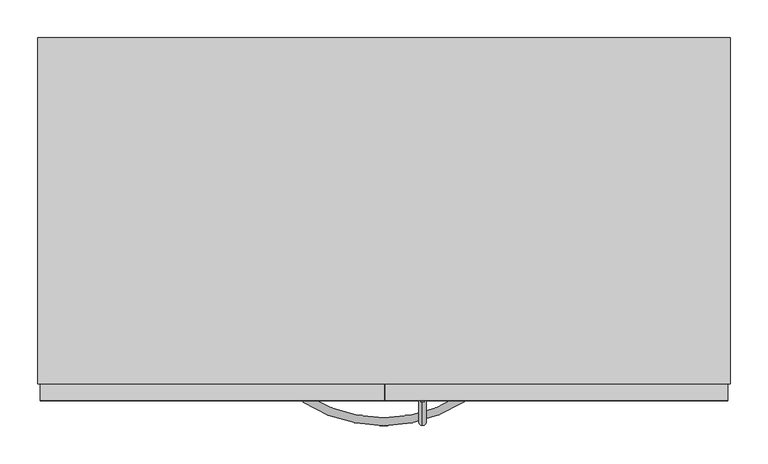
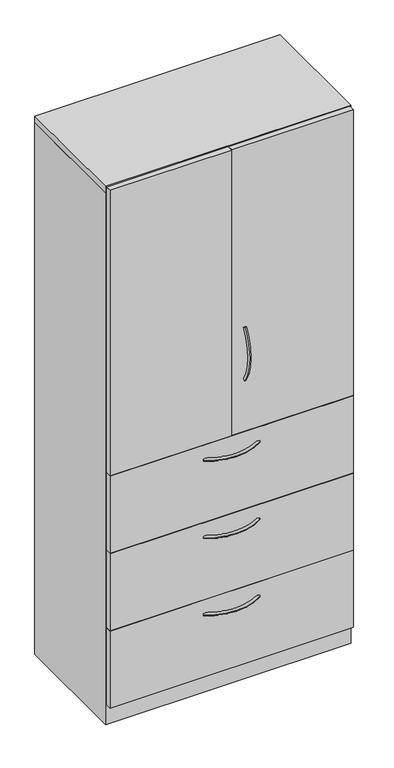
"""IFC4 building model written with IfcOpenShell, lengths in millimetres: furniture geometry, Steelcase - Universal Storage - Cabinet - Combination - Proud Steel : 83 1/2H - Hinged Doors/3 Drawers - 18 7/8D x 36W."""

from ifc_helpers import new_model, si_unit, point, frame, origin, place, context, project, spatial, polyline, circle_curve, ellipse_curve, trimmed, outline, extrude, faceted_brep, source, transform, mapped, element, save
from ifc_brep_helpers import plane_surface, revolved_surface, advanced_brep


def furniture_d7977ed6(model_context):
    return source(origin(), model_context, "Body", "SolidModel", [
        extrude(outline(polyline([(911.2225413, -479.552), (3.1725353, -479.552), (3.1725353, -457.3261219), (911.2225413, -457.3261219), (911.2225413, -479.552)])), frame((0.0, 0.0, 77.724), z_axis=(0.0, 0.0, 1.0), x_axis=(1.0, 0.0, 0.0)), (0.0, 0.0, 1.0), 303.276),
        extrude(outline(polyline([(911.2225413, -479.552), (3.1725353, -479.552), (3.1725353, -457.3261219), (911.2225413, -457.3261219), (911.2225413, -479.552)])), frame((0.0, 0.0, 382.524), z_axis=(0.0, 0.0, 1.0), x_axis=(1.0, 0.0, 0.0)), (0.0, 0.0, 1.0), 303.276),
        extrude(outline(polyline([(911.2225413, -479.552), (3.1725353, -479.552), (3.1725353, -457.3261219), (911.2225413, -457.3261219), (911.2225413, -479.552)])), frame((0.0, 0.0, 687.3240349), z_axis=(0.0, 0.0, 1.0), x_axis=(1.0, 0.0, 0.0)), (0.0, 0.0, 1.0), 303.2759651),
        extrude(outline(polyline([(457.2, -479.552), (3.1725353, -479.552), (3.1725353, -457.3261219), (457.2, -457.3261219), (457.2, -479.552)])), frame((0.0, 0.0, 992.5062596), z_axis=(0.0, 0.0, 1.0), x_axis=(1.0, 0.0, 0.0)), (0.0, 0.0, 1.0), 1125.22),
        extrude(outline(polyline([(911.2225413, -479.552), (458.7239992, -479.552), (458.7239992, -457.3261219), (911.2225413, -457.3261219), (911.2225413, -479.552)])), frame((0.0, 0.0, 992.5062596), z_axis=(0.0, 0.0, 1.0), x_axis=(1.0, 0.0, 0.0)), (0.0, 0.0, 1.0), 1125.22),
        advanced_brep(
        [(507.9682496, -481.5705994, 1404.643666), (507.9682496, -473.0108019, 1399.1705073), (507.9682496, -481.1337636, 1192.3367456), (507.9682496, -472.5965612, 1197.8450825)],
        [
            (0, 1, circle_curve(frame((507.9682496, -477.2907007, 1401.9070866), z_axis=(0.0, 0.5386967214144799, 0.842499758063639), x_axis=(0.0, 0.842499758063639, -0.5386967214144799)), 5.08)),
            (1, 0, circle_curve(frame((507.9682496, -477.2907007, 1401.9070866), z_axis=(0.0, 0.5386967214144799, 0.842499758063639), x_axis=(0.0, 0.842499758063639, -0.5386967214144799)), 5.08)),
            (2, 3, circle_curve(frame((507.9682496, -476.8651624, 1195.0909141), z_axis=(0.0, 0.5421591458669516, -0.8402758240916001), x_axis=(0.0, 0.8402758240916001, 0.5421591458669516)), 5.08)),
            (3, 2, circle_curve(frame((507.9682496, -476.8651624, 1195.0909141), z_axis=(0.0, 0.5421591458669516, -0.8402758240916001), x_axis=(0.0, 0.8402758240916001, 0.5421591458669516)), 5.08)),
            (3, 1, circle_curve(frame((507.9682496, -316.0827352, 1298.8302589), z_axis=(-1.0, 0.0, 0.0), x_axis=(0.0, -0.8424997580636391, 0.5386967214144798)), 186.2648211)),
            (0, 2, circle_curve(frame((507.9682496, -316.0827352, 1298.8302589), z_axis=(1.0, 0.0, 0.0), x_axis=(0.0, -0.8424997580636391, 0.5386967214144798)), 196.4248211)),
        ],
        [
            plane_surface(frame((508.7619996, -476.6365286, 1401.4888072), z_axis=(0.0, 0.5386967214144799, 0.8424997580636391), x_axis=(1.0, 0.0, 0.0))),
            plane_surface(frame((508.7619996, -476.2127171, 1195.511882), z_axis=(0.0, 0.5421591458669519, -0.8402758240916), x_axis=(1.0, 0.0, 0.0))),
            revolved_surface(trimmed(ellipse_curve(frame((507.9682496, -477.2907007, 1401.9070866), z_axis=(0.0, 0.5386967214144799, 0.842499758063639), x_axis=(0.0, 0.842499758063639, -0.5386967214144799)), 5.08, 5.08), [point((507.9682496, -481.5705994, 1404.643666))], [point((507.9682496, -473.0108019, 1399.1705073))], True, "CARTESIAN"), (508.7619996, -316.0827352, 1298.8302589), (1.0, 0.0, 0.0)),
            revolved_surface(trimmed(ellipse_curve(frame((507.9682496, -477.2907007, 1401.9070866), z_axis=(0.0, 0.5386967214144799, 0.842499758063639), x_axis=(0.0, 0.842499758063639, -0.5386967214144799)), 5.08, 5.08), [point((507.9682496, -473.0108019, 1399.1705073))], [point((507.9682496, -481.5705994, 1404.643666))], True, "CARTESIAN"), (508.7619996, -316.0827352, 1298.8302589), (1.0, 0.0, 0.0)),
        ],
        [
            (0, [[1, 2]]),
            (1, [[3, 4]]),
            (2, [[5, -1, 6, -4]]),
            (3, [[-6, -2, -5, -3]]),
        ],
    ),
        advanced_brep(
        [(350.6245932, -481.5705994, 323.56425), (356.0977519, -473.0108019, 323.56425), (562.9315136, -481.1337636, 323.56425), (557.4231767, -472.5965612, 323.56425)],
        [
            (0, 1, circle_curve(frame((353.3611726, -477.2907007, 323.56425), z_axis=(-0.8424997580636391, 0.5386967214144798, 0.0), x_axis=(0.5386967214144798, 0.8424997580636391, 0.0)), 5.08)),
            (1, 0, circle_curve(frame((353.3611726, -477.2907007, 323.56425), z_axis=(-0.8424997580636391, 0.5386967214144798, 0.0), x_axis=(0.5386967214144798, 0.8424997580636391, 0.0)), 5.08)),
            (2, 3, circle_curve(frame((560.1773452, -476.8651624, 323.56425), z_axis=(0.8402758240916, 0.5421591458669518, 0.0), x_axis=(-0.5421591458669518, 0.8402758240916, 0.0)), 5.08)),
            (3, 2, circle_curve(frame((560.1773452, -476.8651624, 323.56425), z_axis=(0.8402758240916, 0.5421591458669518, 0.0), x_axis=(-0.5421591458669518, 0.8402758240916, 0.0)), 5.08)),
            (3, 1, circle_curve(frame((456.4380004, -316.0827352, 323.56425), z_axis=(0.0, 0.0, -1.0), x_axis=(-0.5386967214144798, -0.8424997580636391, 0.0)), 186.2648211)),
            (0, 2, circle_curve(frame((456.4380004, -316.0827352, 323.56425), z_axis=(0.0, 0.0, 1.0), x_axis=(-0.5386967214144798, -0.8424997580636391, 0.0)), 196.4248211)),
        ],
        [
            plane_surface(frame((353.7794521, -476.6365286, 324.358), z_axis=(-0.8424997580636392, 0.5386967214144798, 0.0), x_axis=(0.0, 0.0, 1.0))),
            plane_surface(frame((559.7563772, -476.2127171, 324.358), z_axis=(0.8402758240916, 0.5421591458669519, 0.0), x_axis=(0.0, 0.0, 1.0))),
            revolved_surface(trimmed(ellipse_curve(frame((353.3611726, -477.2907007, 323.56425), z_axis=(-0.8424997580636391, 0.5386967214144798, 0.0), x_axis=(0.5386967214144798, 0.8424997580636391, 0.0)), 5.08, 5.08), [point((350.6245932, -481.5705994, 323.56425))], [point((356.0977519, -473.0108019, 323.56425))], True, "CARTESIAN"), (456.4380004, -316.0827352, 324.358), (0.0, 0.0, 1.0)),
            revolved_surface(trimmed(ellipse_curve(frame((353.3611726, -477.2907007, 323.56425), z_axis=(-0.8424997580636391, 0.5386967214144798, 0.0), x_axis=(0.5386967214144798, 0.8424997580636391, 0.0)), 5.08, 5.08), [point((356.0977519, -473.0108019, 323.56425))], [point((350.6245932, -481.5705994, 323.56425))], True, "CARTESIAN"), (456.4380004, -316.0827352, 324.358), (0.0, 0.0, 1.0)),
        ],
        [
            (0, [[1, 2]]),
            (1, [[3, 4]]),
            (2, [[5, -1, 6, -4]]),
            (3, [[-6, -2, -5, -3]]),
        ],
    ),
        advanced_brep(
        [(350.6245932, -481.5705994, 627.85625), (356.0977519, -473.0108019, 627.85625), (562.9315136, -481.1337636, 627.85625), (557.4231767, -472.5965612, 627.85625)],
        [
            (0, 1, circle_curve(frame((353.3611726, -477.2907007, 627.85625), z_axis=(-0.8424997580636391, 0.5386967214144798, 0.0), x_axis=(0.5386967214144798, 0.8424997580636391, 0.0)), 5.08)),
            (1, 0, circle_curve(frame((353.3611726, -477.2907007, 627.85625), z_axis=(-0.8424997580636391, 0.5386967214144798, 0.0), x_axis=(0.5386967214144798, 0.8424997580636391, 0.0)), 5.08)),
            (2, 3, circle_curve(frame((560.1773452, -476.8651624, 627.85625), z_axis=(0.8402758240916, 0.5421591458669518, 0.0), x_axis=(-0.5421591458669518, 0.8402758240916, 0.0)), 5.08)),
            (3, 2, circle_curve(frame((560.1773452, -476.8651624, 627.85625), z_axis=(0.8402758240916, 0.5421591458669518, 0.0), x_axis=(-0.5421591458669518, 0.8402758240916, 0.0)), 5.08)),
            (3, 1, circle_curve(frame((456.4380004, -316.0827352, 627.85625), z_axis=(0.0, 0.0, -1.0), x_axis=(-0.5386967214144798, -0.8424997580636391, 0.0)), 186.2648211)),
            (0, 2, circle_curve(frame((456.4380004, -316.0827352, 627.85625), z_axis=(0.0, 0.0, 1.0), x_axis=(-0.5386967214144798, -0.8424997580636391, 0.0)), 196.4248211)),
        ],
        [
            plane_surface(frame((353.7794521, -476.6365286, 628.65), z_axis=(-0.8424997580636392, 0.5386967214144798, 0.0), x_axis=(0.0, 0.0, 1.0))),
            plane_surface(frame((559.7563772, -476.2127171, 628.65), z_axis=(0.8402758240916, 0.5421591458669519, 0.0), x_axis=(0.0, 0.0, 1.0))),
            revolved_surface(trimmed(ellipse_curve(frame((353.3611726, -477.2907007, 627.85625), z_axis=(-0.8424997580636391, 0.5386967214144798, 0.0), x_axis=(0.5386967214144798, 0.8424997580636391, 0.0)), 5.08, 5.08), [point((350.6245932, -481.5705994, 627.85625))], [point((356.0977519, -473.0108019, 627.85625))], True, "CARTESIAN"), (456.4380004, -316.0827352, 628.65), (0.0, 0.0, 1.0)),
            revolved_surface(trimmed(ellipse_curve(frame((353.3611726, -477.2907007, 627.85625), z_axis=(-0.8424997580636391, 0.5386967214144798, 0.0), x_axis=(0.5386967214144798, 0.8424997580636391, 0.0)), 5.08, 5.08), [point((356.0977519, -473.0108019, 627.85625))], [point((350.6245932, -481.5705994, 627.85625))], True, "CARTESIAN"), (456.4380004, -316.0827352, 628.65), (0.0, 0.0, 1.0)),
        ],
        [
            (0, [[1, 2]]),
            (1, [[3, 4]]),
            (2, [[5, -1, 6, -4]]),
            (3, [[-6, -2, -5, -3]]),
        ],
    ),
        advanced_brep(
        [(350.6245932, -481.5705994, 932.65625), (356.0977519, -473.0108019, 932.65625), (562.9315136, -481.1337636, 932.65625), (557.4231767, -472.5965612, 932.65625)],
        [
            (0, 1, circle_curve(frame((353.3611726, -477.2907007, 932.65625), z_axis=(-0.8424997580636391, 0.5386967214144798, 0.0), x_axis=(0.5386967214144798, 0.8424997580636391, 0.0)), 5.08)),
            (1, 0, circle_curve(frame((353.3611726, -477.2907007, 932.65625), z_axis=(-0.8424997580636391, 0.5386967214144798, 0.0), x_axis=(0.5386967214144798, 0.8424997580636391, 0.0)), 5.08)),
            (2, 3, circle_curve(frame((560.1773452, -476.8651624, 932.65625), z_axis=(0.8402758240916, 0.5421591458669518, 0.0), x_axis=(-0.5421591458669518, 0.8402758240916, 0.0)), 5.08)),
            (3, 2, circle_curve(frame((560.1773452, -476.8651624, 932.65625), z_axis=(0.8402758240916, 0.5421591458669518, 0.0), x_axis=(-0.5421591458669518, 0.8402758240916, 0.0)), 5.08)),
            (3, 1, circle_curve(frame((456.4380004, -316.0827352, 932.65625), z_axis=(0.0, 0.0, -1.0), x_axis=(-0.5386967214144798, -0.8424997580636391, 0.0)), 186.2648211)),
            (0, 2, circle_curve(frame((456.4380004, -316.0827352, 932.65625), z_axis=(0.0, 0.0, 1.0), x_axis=(-0.5386967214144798, -0.8424997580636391, 0.0)), 196.4248211)),
        ],
        [
            plane_surface(frame((353.7794521, -476.6365286, 933.45), z_axis=(-0.8424997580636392, 0.5386967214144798, 0.0), x_axis=(0.0, 0.0, 1.0))),
            plane_surface(frame((559.7563772, -476.2127171, 933.45), z_axis=(0.8402758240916, 0.5421591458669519, 0.0), x_axis=(0.0, 0.0, 1.0))),
            revolved_surface(trimmed(ellipse_curve(frame((353.3611726, -477.2907007, 932.65625), z_axis=(-0.8424997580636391, 0.5386967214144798, 0.0), x_axis=(0.5386967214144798, 0.8424997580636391, 0.0)), 5.08, 5.08), [point((350.6245932, -481.5705994, 932.65625))], [point((356.0977519, -473.0108019, 932.65625))], True, "CARTESIAN"), (456.4380004, -316.0827352, 933.45), (0.0, 0.0, 1.0)),
            revolved_surface(trimmed(ellipse_curve(frame((353.3611726, -477.2907007, 932.65625), z_axis=(-0.8424997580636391, 0.5386967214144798, 0.0), x_axis=(0.5386967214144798, 0.8424997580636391, 0.0)), 5.08, 5.08), [point((356.0977519, -473.0108019, 932.65625))], [point((350.6245932, -481.5705994, 932.65625))], True, "CARTESIAN"), (456.4380004, -316.0827352, 933.45), (0.0, 0.0, 1.0)),
        ],
        [
            (0, [[1, 2]]),
            (1, [[3, 4]]),
            (2, [[5, -1, 6, -4]]),
            (3, [[-6, -2, -5, -3]]),
        ],
    ),
        faceted_brep([(25.4000008, -457.3261219, 76.2), (889.0000242, -457.3261219, 76.2), (889.0000242, -25.4000008, 76.2), (25.4000008, -25.4000008, 76.2), (914.4, 0.0, 0.0), (914.4, -457.3261219, 0.0), (0.0, -457.3261219, 0.0), (0.0, 0.0, 0.0), (0.0, 0.0, 2093.976), (914.4, 0.0, 2093.976), (0.0, -457.3261219, 2093.976), (914.4, -457.3261219, 2093.976), (889.0000242, -457.3261219, 2093.976), (25.4000008, -457.3261219, 2093.976), (889.0000242, -25.4000008, 2093.976), (25.4000008, -25.4000008, 2093.976)], [[[0, 1, 2, 3]], [[4, 5, 6, 7]], [[4, 7, 8, 9]], [[8, 7, 6, 10]], [[10, 6, 5, 11, 12, 1, 0, 13]], [[11, 5, 4, 9]], [[14, 12, 11, 9, 8, 10, 13, 15]], [[12, 14, 2, 1]], [[15, 13, 0, 3]], [[14, 15, 3, 2]]]),
        extrude(outline(polyline([(914.4, 0.0), (914.4, -457.3261219), (0.0, -457.3261219), (0.0, 0.0), (914.4, 0.0)])), frame((0.0, 0.0, 2095.4999516), z_axis=(0.0, 0.0, 1.0), x_axis=(1.0, 0.0, 0.0)), (0.0, 0.0, 1.0), 25.4000484),
    ])


if __name__ == "__main__":
    model = new_model("IFC4")
    model_context = context("Model", 3, world=origin())
    ifc_project = project(units=[si_unit("LENGTHUNIT", "METRE", prefix="MILLI")], contexts=[model_context])
    site = spatial("IfcSite", under=ifc_project)
    building = spatial("IfcBuilding", under=site)
    placement = place(None, origin())
    furniture_shape = furniture_d7977ed6(model_context)
    element("IfcFurniture", 1, ObjectType="Steelcase - Universal Storage - Cabinet - Combination - Proud Steel : 83 1/2H - Hinged Doors/3 Drawers - 18 7/8D x 36W", at=placement, inside=building, context=model_context, shape_type="MappedRepresentation", body=[
        mapped(furniture_shape, transform((0.0, 0.0, 0.0), x_axis=(1.0, 0.0, 0.0), y_axis=(0.0, 1.0, 0.0), z_axis=(0.0, 0.0, 1.0))),
    ])
    save(model, "model.ifc")
